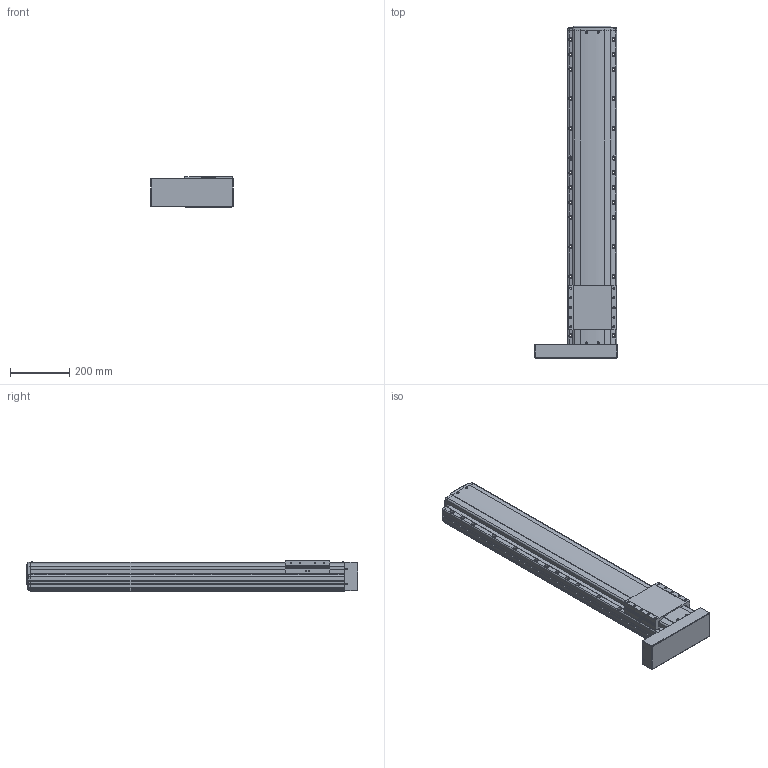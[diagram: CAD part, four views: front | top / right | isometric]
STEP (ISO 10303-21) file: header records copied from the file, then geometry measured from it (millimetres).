
FILE_DESCRIPTION(('STEP AP214'),'1');
FILE_NAME('Z:/Web/3D/PSA165/STP/PSA165-800 (3D)/PSA165ㅁㅁ-800PL.stp','2014-06-23T11:51:47',(' '),(' '),'Spatial InterOp 3D',' ',' ');
FILE_SCHEMA(('automotive_design'));
Length unit declared in the file: millimetre
Products named in the file (23): 스크루 : Round - M4.0 x 12.0; RRCV-PA160; BASE; 스크루 : Round - M4.0 x 10.0; RN15; Screw 20; SLIDE; FRCV; MTPL; 스크루 : Round - M3.0 x 6.0
Bounding box: 281.93 x 1120.8 x 104 mm (x, y, z)
Volume: 16012286.8 mm3; surface area: 1019802.6 mm2
Topology: 23 solids, 23 shells, 2083 faces, 5629 edges, 3581 vertices
Faces by surface type: plane 1100, cylinder 697, cone 201, sphere 44, bspline 25, torus 16
Entity records: 85167 total; most frequent: CARTESIAN_POINT 15458, DIRECTION 11095, ORIENTED_EDGE 10950, EDGE_CURVE 5475, AXIS2_PLACEMENT_3D 3752, LINE 3591, VECTOR 3591, VERTEX_POINT 3581
